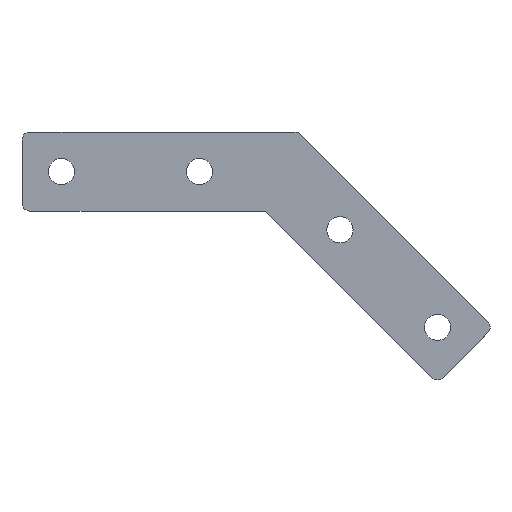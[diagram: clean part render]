
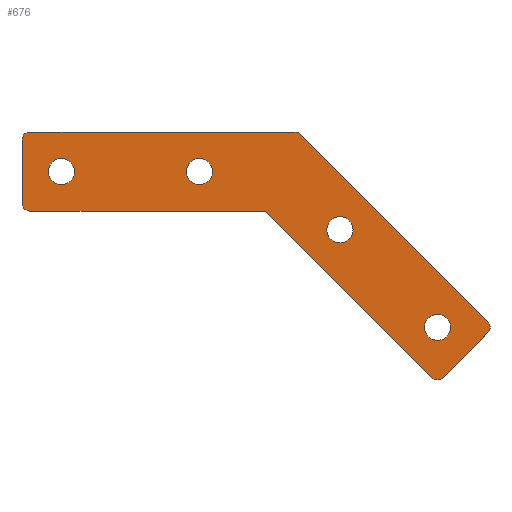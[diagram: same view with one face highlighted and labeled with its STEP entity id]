
A CAD part, top view. The second image highlights one B-rep face of the part: STEP entity #676.
In plain terms, the highlighted planar face has unit normal (0, 0, 1).
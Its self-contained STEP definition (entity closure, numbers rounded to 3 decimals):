
#94=CARTESIAN_POINT('',(-12.066,10.418,4.));
#95=VERTEX_POINT('',#94);
#96=CARTESIAN_POINT('',(-15.389,10.418,4.));
#97=DIRECTION('',(0.0,0.0,-1.0));
#98=DIRECTION('',(-1.0,0.0,0.0));
#99=AXIS2_PLACEMENT_3D('',#96,#97,#98);
#100=CIRCLE('',#99,3.324);
#101=EDGE_CURVE('',#95,#95,#100,.T.);
#143=CARTESIAN_POINT('',(-47.066,10.418,4.));
#144=VERTEX_POINT('',#143);
#145=CARTESIAN_POINT('',(-50.389,10.418,4.));
#146=DIRECTION('',(0.0,0.0,-1.0));
#147=DIRECTION('',(-1.0,0.0,0.0));
#148=AXIS2_PLACEMENT_3D('',#145,#146,#147);
#149=CIRCLE('',#148,3.324);
#150=EDGE_CURVE('',#144,#144,#149,.T.);
#192=CARTESIAN_POINT('',(48.289,-29.079,4.));
#193=VERTEX_POINT('',#192);
#194=CARTESIAN_POINT('',(44.966,-29.079,4.));
#195=DIRECTION('',(0.0,0.0,-1.0));
#196=DIRECTION('',(-1.0,0.0,0.0));
#197=AXIS2_PLACEMENT_3D('',#194,#195,#196);
#198=CIRCLE('',#197,3.324);
#199=EDGE_CURVE('',#193,#193,#198,.T.);
#241=CARTESIAN_POINT('',(23.541,-4.33,4.));
#242=VERTEX_POINT('',#241);
#243=CARTESIAN_POINT('',(20.217,-4.33,4.));
#244=DIRECTION('',(0.0,0.0,-1.0));
#245=DIRECTION('',(-1.0,0.0,0.0));
#246=AXIS2_PLACEMENT_3D('',#243,#244,#245);
#247=CIRCLE('',#246,3.324);
#248=EDGE_CURVE('',#242,#242,#247,.T.);
#269=CARTESIAN_POINT('',(1.326,0.418,4.0));
#270=VERTEX_POINT('',#269);
#271=CARTESIAN_POINT('',(-58.389,0.418,4.0));
#272=VERTEX_POINT('',#271);
#273=CARTESIAN_POINT('',(1.326,0.418,4.0));
#274=DIRECTION('',(-1.0,0.0,0.0));
#275=VECTOR('',#274,59.716);
#276=LINE('',#273,#275);
#277=EDGE_CURVE('',#270,#272,#276,.T.);
#309=CARTESIAN_POINT('',(-60.389,2.418,4.0));
#310=VERTEX_POINT('',#309);
#311=CARTESIAN_POINT('',(-58.389,2.418,4.0));
#312=DIRECTION('',(0.0,0.0,-1.0));
#313=DIRECTION('',(-1.0,0.0,0.0));
#314=AXIS2_PLACEMENT_3D('',#311,#312,#313);
#315=CIRCLE('',#314,2.);
#316=EDGE_CURVE('',#272,#310,#315,.T.);
#342=CARTESIAN_POINT('',(-60.389,18.418,4.0));
#343=VERTEX_POINT('',#342);
#344=CARTESIAN_POINT('',(-60.389,2.418,4.0));
#345=DIRECTION('',(0.0,1.0,0.0));
#346=VECTOR('',#345,16.0);
#347=LINE('',#344,#346);
#348=EDGE_CURVE('',#310,#343,#347,.T.);
#373=CARTESIAN_POINT('',(-58.389,20.418,4.0));
#374=VERTEX_POINT('',#373);
#375=CARTESIAN_POINT('',(-58.389,18.418,4.0));
#376=DIRECTION('',(0.0,0.0,-1.0));
#377=DIRECTION('',(0.0,1.0,0.0));
#378=AXIS2_PLACEMENT_3D('',#375,#376,#377);
#379=CIRCLE('',#378,2.);
#380=EDGE_CURVE('',#343,#374,#379,.T.);
#406=CARTESIAN_POINT('',(8.782,20.418,4.0));
#407=VERTEX_POINT('',#406);
#408=CARTESIAN_POINT('',(-58.389,20.418,4.0));
#409=DIRECTION('',(1.0,0.0,0.0));
#410=VECTOR('',#409,67.172);
#411=LINE('',#408,#410);
#412=EDGE_CURVE('',#374,#407,#411,.T.);
#437=CARTESIAN_POINT('',(10.196,19.833,4.0));
#438=VERTEX_POINT('',#437);
#439=CARTESIAN_POINT('',(8.782,18.418,4.0));
#440=DIRECTION('',(0.0,0.0,-1.0));
#441=DIRECTION('',(0.707,0.707,0.0));
#442=AXIS2_PLACEMENT_3D('',#439,#440,#441);
#443=CIRCLE('',#442,2.);
#444=EDGE_CURVE('',#407,#438,#443,.T.);
#470=CARTESIAN_POINT('',(57.694,-27.665,4.0));
#471=VERTEX_POINT('',#470);
#472=CARTESIAN_POINT('',(10.196,19.833,4.0));
#473=DIRECTION('',(0.707,-0.707,0.0));
#474=VECTOR('',#473,67.172);
#475=LINE('',#472,#474);
#476=EDGE_CURVE('',#438,#471,#475,.T.);
#501=CARTESIAN_POINT('',(57.694,-30.493,4.0));
#502=VERTEX_POINT('',#501);
#503=CARTESIAN_POINT('',(56.28,-29.079,4.0));
#504=DIRECTION('',(0.0,0.0,-1.0));
#505=DIRECTION('',(0.707,-0.707,0.0));
#506=AXIS2_PLACEMENT_3D('',#503,#504,#505);
#507=CIRCLE('',#506,2.);
#508=EDGE_CURVE('',#471,#502,#507,.T.);
#534=CARTESIAN_POINT('',(46.38,-41.807,4.0));
#535=VERTEX_POINT('',#534);
#536=CARTESIAN_POINT('',(57.694,-30.493,4.0));
#537=DIRECTION('',(-0.707,-0.707,0.0));
#538=VECTOR('',#537,16.);
#539=LINE('',#536,#538);
#540=EDGE_CURVE('',#502,#535,#539,.T.);
#565=CARTESIAN_POINT('',(43.552,-41.807,4.0));
#566=VERTEX_POINT('',#565);
#567=CARTESIAN_POINT('',(44.966,-40.393,4.0));
#568=DIRECTION('',(0.0,0.0,-1.));
#569=DIRECTION('',(-0.707,-0.707,0.0));
#570=AXIS2_PLACEMENT_3D('',#567,#568,#569);
#571=CIRCLE('',#570,2.);
#572=EDGE_CURVE('',#535,#566,#571,.T.);
#598=CARTESIAN_POINT('',(43.552,-41.807,4.0));
#599=DIRECTION('',(-0.707,0.707,0.0));
#600=VECTOR('',#599,59.716);
#601=LINE('',#598,#600);
#602=EDGE_CURVE('',#566,#270,#601,.T.);
#646=CARTESIAN_POINT('',(0.268,-2.136,4.0));
#647=DIRECTION('',(0.0,0.0,1.0));
#648=DIRECTION('',(1.0,0.0,0.0));
#649=AXIS2_PLACEMENT_3D('',#646,#647,#648);
#650=PLANE('',#649);
#651=ORIENTED_EDGE('',*,*,#277,.F.);
#652=ORIENTED_EDGE('',*,*,#602,.F.);
#653=ORIENTED_EDGE('',*,*,#572,.F.);
#654=ORIENTED_EDGE('',*,*,#540,.F.);
#655=ORIENTED_EDGE('',*,*,#508,.F.);
#656=ORIENTED_EDGE('',*,*,#476,.F.);
#657=ORIENTED_EDGE('',*,*,#444,.F.);
#658=ORIENTED_EDGE('',*,*,#412,.F.);
#659=ORIENTED_EDGE('',*,*,#380,.F.);
#660=ORIENTED_EDGE('',*,*,#348,.F.);
#661=ORIENTED_EDGE('',*,*,#316,.F.);
#662=EDGE_LOOP('',(#651,#652,#653,#654,#655,#656,#657,#658,#659,#660,#661));
#663=FACE_OUTER_BOUND('',#662,.T.);
#664=ORIENTED_EDGE('',*,*,#101,.T.);
#665=EDGE_LOOP('',(#664));
#666=FACE_BOUND('',#665,.T.);
#667=ORIENTED_EDGE('',*,*,#150,.T.);
#668=EDGE_LOOP('',(#667));
#669=FACE_BOUND('',#668,.T.);
#670=ORIENTED_EDGE('',*,*,#199,.T.);
#671=EDGE_LOOP('',(#670));
#672=FACE_BOUND('',#671,.T.);
#673=ORIENTED_EDGE('',*,*,#248,.T.);
#674=EDGE_LOOP('',(#673));
#675=FACE_BOUND('',#674,.T.);
#676=ADVANCED_FACE('',(#663,#666,#669,#672,#675),#650,.T.);
